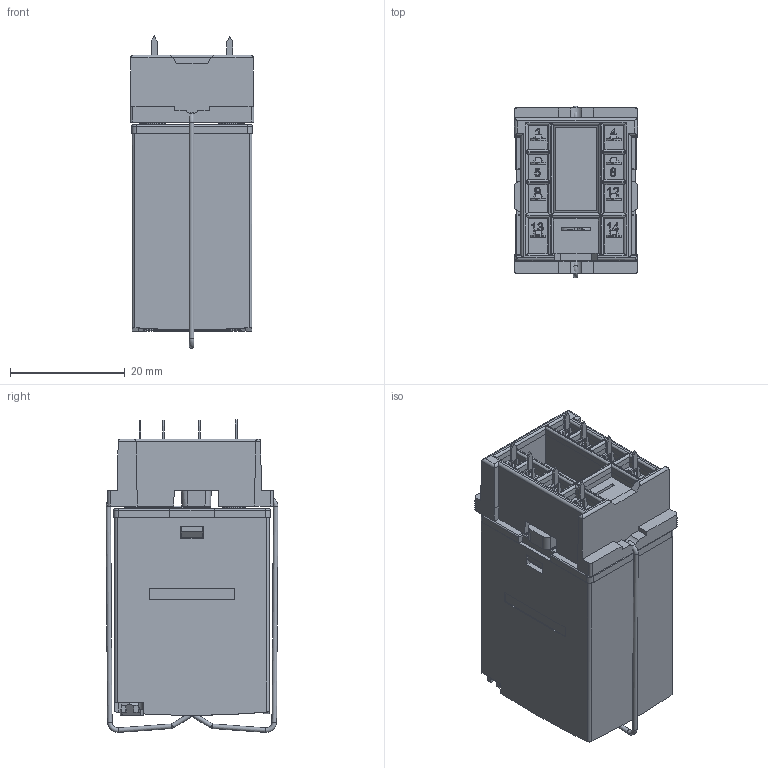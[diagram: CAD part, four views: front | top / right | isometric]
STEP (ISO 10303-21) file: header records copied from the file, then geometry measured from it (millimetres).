
FILE_DESCRIPTION(/* description */ (''),/* implementation_level */ '2;1');
FILE_NAME(/* name */ '18F-2Z-A2.stp',/* time_stamp */ '2019-04-16T14:21:33+08:00',/* author */ (''),/* organization */ (''),/* preprocessor_version */ 'ST-DEVELOPER v16.7',/* originating_system */ 'SIEMENS PLM Software NX 12.0',/* authorisation */ '');
FILE_SCHEMA (('AUTOMOTIVE_DESIGN { 1 0 10303 214 3 1 1 1 }'));
Products named in the file (5): 39mm; APT; HT7.810.013-2; HT7.730.052; 18F-2Z-A2
Assembly tree (11 placements, depth 2):
  18F-2Z-A2
    HT7.730.052  x8
    HT7.810.013-2
    APT
    39mm
Bounding box: 21.6 x 30 x 54.6 mm (x, y, z)
Volume: 15154.5 mm3; surface area: 26567.5 mm2
Topology: 46 solids, 46 shells, 4096 faces, 10635 edges, 6760 vertices
Faces by surface type: plane 2784, cylinder 989, bspline 94, torus 93, sphere 58, extrusion 47, cone 31
Full cylindrical faces by diameter (mm): 0.8 x9
Entity records: 111608 total; most frequent: CARTESIAN_POINT 27265, ORIENTED_EDGE 17778, DIRECTION 16687, EDGE_CURVE 8889, VECTOR 6785, LINE 6752, VERTEX_POINT 5688, AXIS2_PLACEMENT_3D 4951
